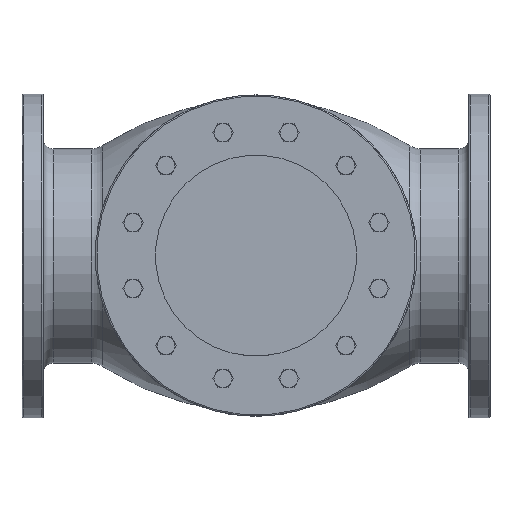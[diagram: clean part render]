
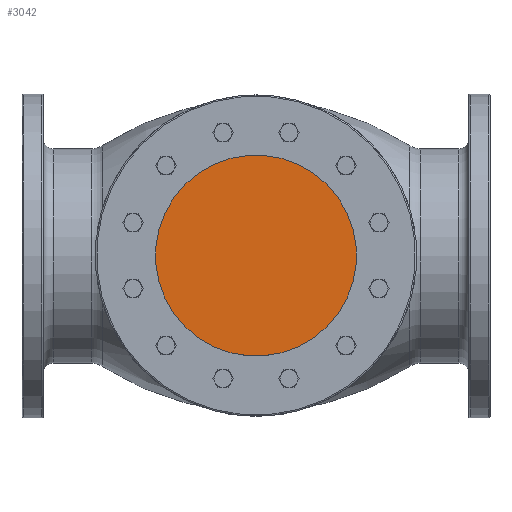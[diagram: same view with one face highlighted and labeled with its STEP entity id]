
A CAD part, top view. The second image highlights one B-rep face of the part: STEP entity #3042.
In plain terms, the highlighted planar face has unit normal (0, 0, 1).
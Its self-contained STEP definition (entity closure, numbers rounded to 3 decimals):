
#253 = EDGE_CURVE('',#254,#256,#258,.T.);
#254 = VERTEX_POINT('',#255);
#255 = CARTESIAN_POINT('',(-99.213,-111.596,
    454.089));
#256 = VERTEX_POINT('',#257);
#257 = CARTESIAN_POINT('',(-176.859,-401.374,
    454.089));
#258 = SURFACE_CURVE('',#259,(#264,#276),.PCURVE_S1.);
#259 = CIRCLE('',#260,150.);
#260 = AXIS2_PLACEMENT_3D('',#261,#262,#263);
#261 = CARTESIAN_POINT('',(-138.036,-256.485,
    454.089));
#262 = DIRECTION('',(0.,0.,1.));
#263 = DIRECTION('',(-0.259,-0.966,0.)
  );
#264 = PCURVE('',#265,#270);
#265 = CYLINDRICAL_SURFACE('',#266,150.);
#266 = AXIS2_PLACEMENT_3D('',#267,#268,#269);
#267 = CARTESIAN_POINT('',(-138.036,-256.485,
    454.089));
#268 = DIRECTION('',(0.,0.,1.));
#269 = DIRECTION('',(-0.259,-0.966,0.)
  );
#270 = DEFINITIONAL_REPRESENTATION('',(#271),#275);
#271 = LINE('',#272,#273);
#272 = CARTESIAN_POINT('',(0.,0.));
#273 = VECTOR('',#274,1.);
#274 = DIRECTION('',(1.,0.));
#275 = ( GEOMETRIC_REPRESENTATION_CONTEXT(2) 
PARAMETRIC_REPRESENTATION_CONTEXT() REPRESENTATION_CONTEXT('2D SPACE',''
  ) );
#276 = PCURVE('',#277,#282);
#277 = PLANE('',#278);
#278 = AXIS2_PLACEMENT_3D('',#279,#280,#281);
#279 = CARTESIAN_POINT('',(-138.036,-256.485,
    454.089));
#280 = DIRECTION('',(0.,0.,1.));
#281 = DIRECTION('',(-0.259,-0.966,0.)
  );
#282 = DEFINITIONAL_REPRESENTATION('',(#283),#287);
#283 = CIRCLE('',#284,150.);
#284 = AXIS2_PLACEMENT_2D('',#285,#286);
#285 = CARTESIAN_POINT('',(0.,0.));
#286 = DIRECTION('',(1.,0.));
#287 = ( GEOMETRIC_REPRESENTATION_CONTEXT(2) 
PARAMETRIC_REPRESENTATION_CONTEXT() REPRESENTATION_CONTEXT('2D SPACE',''
  ) );
#305 = CYLINDRICAL_SURFACE('',#306,150.);
#306 = AXIS2_PLACEMENT_3D('',#307,#308,#309);
#307 = CARTESIAN_POINT('',(-138.036,-256.485,
    454.089));
#308 = DIRECTION('',(0.,0.,1.));
#309 = DIRECTION('',(-0.259,-0.966,0.)
  );
#3020 = EDGE_CURVE('',#256,#254,#3021,.T.);
#3021 = SURFACE_CURVE('',#3022,(#3027,#3034),.PCURVE_S1.);
#3022 = CIRCLE('',#3023,150.);
#3023 = AXIS2_PLACEMENT_3D('',#3024,#3025,#3026);
#3024 = CARTESIAN_POINT('',(-138.036,-256.485,
    454.089));
#3025 = DIRECTION('',(0.,0.,1.));
#3026 = DIRECTION('',(-0.259,-0.966,0.
    ));
#3027 = PCURVE('',#305,#3028);
#3028 = DEFINITIONAL_REPRESENTATION('',(#3029),#3033);
#3029 = LINE('',#3030,#3031);
#3030 = CARTESIAN_POINT('',(0.,0.));
#3031 = VECTOR('',#3032,1.);
#3032 = DIRECTION('',(1.,0.));
#3033 = ( GEOMETRIC_REPRESENTATION_CONTEXT(2) 
PARAMETRIC_REPRESENTATION_CONTEXT() REPRESENTATION_CONTEXT('2D SPACE',''
  ) );
#3034 = PCURVE('',#277,#3035);
#3035 = DEFINITIONAL_REPRESENTATION('',(#3036),#3040);
#3036 = CIRCLE('',#3037,150.);
#3037 = AXIS2_PLACEMENT_2D('',#3038,#3039);
#3038 = CARTESIAN_POINT('',(0.,0.));
#3039 = DIRECTION('',(1.,0.));
#3040 = ( GEOMETRIC_REPRESENTATION_CONTEXT(2) 
PARAMETRIC_REPRESENTATION_CONTEXT() REPRESENTATION_CONTEXT('2D SPACE',''
  ) );
#3042 = ADVANCED_FACE('',(#3043),#277,.T.);
#3043 = FACE_BOUND('',#3044,.T.);
#3044 = EDGE_LOOP('',(#3045,#3046));
#3045 = ORIENTED_EDGE('',*,*,#3020,.T.);
#3046 = ORIENTED_EDGE('',*,*,#253,.T.);
